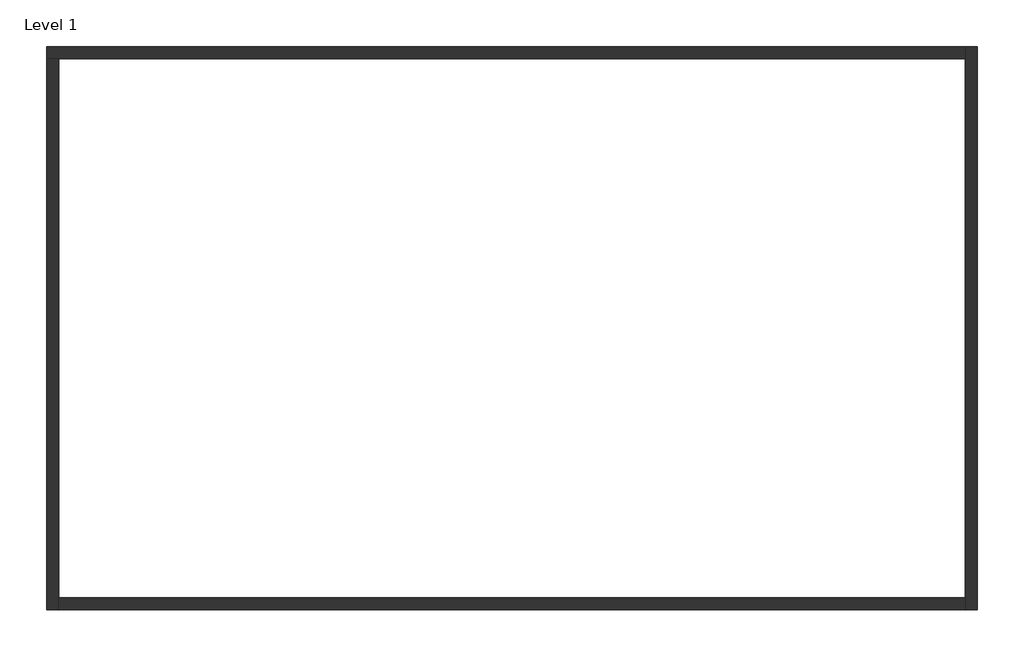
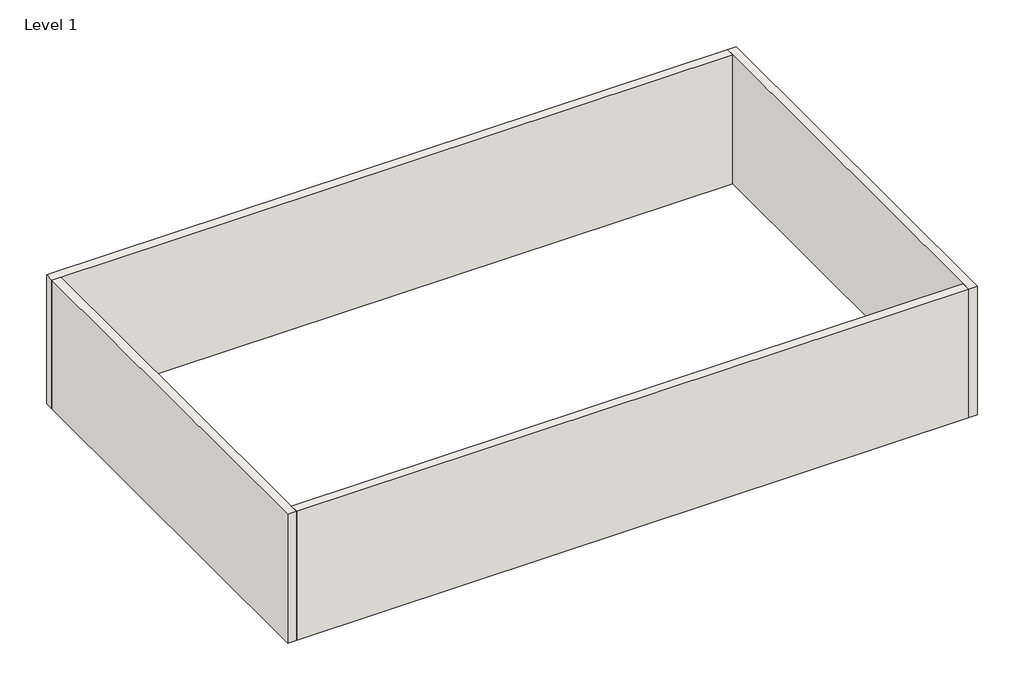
# One storey: 4 walls.
"""IFC4 building model written with IfcOpenShell, lengths in millimetres."""

import ifcopenshell
import ifcopenshell.guid

model = None  # the IFC model being written
_history = None  # IfcOwnerHistory: only IFC2X3 demands one
_inside = {}  # id of a spatial element -> (the spatial element, [elements in it])
_under = {}  # id of a project, library or spatial element -> (it, [spatial elements below it])
_declared = {}  # id of a project -> (the project, [libraries it declares])
_typed = {}  # id of a type object -> (the type object, [elements of that type])
_made_of = {}  # id of a material, layer set ... -> (it, [elements and type objects made of it])


def new_model(schema):
    """Start an empty IFC model of exactly this schema.

    Asked for "IFC4X3", IfcOpenShell would pick the latest addendum, in which some entities
    have other attributes; the version numbers below select the first issue.
    IFC2X3 requires an IfcOwnerHistory on every rooted entity: one is made here for all.
    """
    global model, _history
    if schema == "IFC4X3":
        model = ifcopenshell.file(schema_version=(4, 3, 0, 0))
    else:
        model = ifcopenshell.file(schema=schema)
    _inside.clear()
    _under.clear()
    _declared.clear()
    _typed.clear()
    _made_of.clear()
    _history = None
    if model.schema == "IFC2X3":
        org = make("IfcOrganization", Name="unknown")
        user = make(
            "IfcPersonAndOrganization",
            ThePerson=make("IfcPerson", FamilyName="unknown"),
            TheOrganization=org,
        )
        app = make(
            "IfcApplication",
            ApplicationDeveloper=org,
            Version="unknown",
            ApplicationFullName="unknown",
            ApplicationIdentifier="unknown",
        )
        _history = make(
            "IfcOwnerHistory",
            OwningUser=user,
            OwningApplication=app,
            ChangeAction="ADDED",
            CreationDate=0,
        )
    return model


def make(cls, **values):
    """One entity of the class cls with the attributes given. An attribute that is None is left unset."""
    return model.create_entity(
        cls, **{name: value for name, value in values.items() if value is not None}
    )


def rooted(cls, **values):
    """An entity with a GlobalId (a new one), such as an element, a storey or a relation."""
    return make(cls, GlobalId=ifcopenshell.guid.new(), OwnerHistory=_history, **values)


def si_unit(unit_type, name, prefix=None):
    """IfcSIUnit, for example si_unit("LENGTHUNIT", "METRE", prefix="MILLI")."""
    return make("IfcSIUnit", UnitType=unit_type, Prefix=prefix, Name=name)


def assignment(units):
    """IfcUnitAssignment: the units of a project."""
    return None if units is None else make("IfcUnitAssignment", Units=units)


def point(xyz):
    """IfcCartesianPoint."""
    return None if xyz is None else make("IfcCartesianPoint", Coordinates=xyz)


def direction(xyz):
    """IfcDirection."""
    return None if xyz is None else make("IfcDirection", DirectionRatios=xyz)


def frame(location, z_axis=None, x_axis=None):
    """IfcAxis2Placement3D, a coordinate frame: its origin and axes. An axis left out is left unset."""
    return make(
        "IfcAxis2Placement3D",
        Location=point(location),
        Axis=direction(z_axis),
        RefDirection=direction(x_axis),
    )


def origin():
    """The frame at (0, 0, 0) with its axes left unset."""
    return frame((0.0, 0.0, 0.0))


def origin_with_axes():
    """The frame at (0, 0, 0) with the z axis (0, 0, 1) and the x axis (1, 0, 0) written out."""
    return frame((0.0, 0.0, 0.0), z_axis=(0.0, 0.0, 1.0), x_axis=(1.0, 0.0, 0.0))


def place(relative_to, where):
    """IfcLocalPlacement: puts the frame where relative to a parent placement (None: the world)."""
    return make(
        "IfcLocalPlacement", PlacementRelTo=relative_to, RelativePlacement=where
    )


def context(
    kind, dimensions, precision=None, world=None, true_north=None, identifier=None
):
    """IfcGeometricRepresentationContext, for example the 3D "Model" context."""
    return make(
        "IfcGeometricRepresentationContext",
        ContextIdentifier=identifier,
        ContextType=kind,
        CoordinateSpaceDimension=dimensions,
        Precision=precision,
        WorldCoordinateSystem=world,
        TrueNorth=true_north,
    )


def project(units=None, contexts=None):
    """IfcProject with its units and contexts."""
    return rooted(
        "IfcProject",
        Name="project",
        RepresentationContexts=contexts,
        UnitsInContext=assignment(units),
    )


def spatial(cls, under=None, at=None, **own):
    """A site, building, storey or space (cls), placed at a placement, below another one or the project."""
    s = rooted(cls, ObjectPlacement=at, **own)
    if under is not None:
        _under.setdefault(under.id(), (under, []))[1].append(s)
    return s


def polyline(points):
    """IfcPolyline through the points."""
    return make("IfcPolyline", Points=[point(p) for p in points])


def outline(outer, holes=None, kind="AREA"):
    """IfcArbitraryClosedProfileDef: a profile drawn as a closed curve; with holes, ...WithVoids."""
    if holes is None:
        return make("IfcArbitraryClosedProfileDef", ProfileType=kind, OuterCurve=outer)
    return make(
        "IfcArbitraryProfileDefWithVoids",
        ProfileType=kind,
        OuterCurve=outer,
        InnerCurves=holes,
    )


def extrude(swept, where, along, depth):
    """IfcExtrudedAreaSolid: the profile swept, set in the frame where, extruded along a direction by depth."""
    return make(
        "IfcExtrudedAreaSolid",
        SweptArea=swept,
        Position=where,
        ExtrudedDirection=direction(along),
        Depth=depth,
    )


def faces_of(points, faces, orient=None, outer=None):
    """IfcFace entities. A face is a list of loops; a loop is a list of indices into points, from 0.

    orient and outer hold one flag for each loop. By default every Orientation is true, the
    first loop of a face is its IfcFaceOuterBound and the others are IfcFaceBound.
    """
    made = []
    for i, loops in enumerate(faces):
        bounds = []
        for j, loop in enumerate(loops):
            is_outer = j == 0 if outer is None else outer[i][j]
            bounds.append(
                make(
                    "IfcFaceOuterBound" if is_outer else "IfcFaceBound",
                    Bound=make("IfcPolyLoop", Polygon=[points[k] for k in loop]),
                    Orientation=True if orient is None else orient[i][j],
                )
            )
        made.append(make("IfcFace", Bounds=bounds))
    return made


def faceted_brep(points, faces, orient=None, outer=None, voids=None):
    """IfcFacetedBrep: a solid bounded by flat faces; with voids (closed shells), ...WithVoids."""
    shared = [point(p) for p in points]
    hull = make("IfcClosedShell", CfsFaces=faces_of(shared, faces, orient, outer))
    if voids is None:
        return make("IfcFacetedBrep", Outer=hull)
    return make(
        "IfcFacetedBrepWithVoids",
        Outer=hull,
        Voids=[
            make(cls, CfsFaces=faces_of(shared, fs, o, b)) for cls, fs, o, b in voids
        ],
    )


def shape(context_of_items, identifier, shape_type, items):
    """IfcShapeRepresentation: the items that make up one representation, for example the "Body"."""
    return make(
        "IfcShapeRepresentation",
        ContextOfItems=context_of_items,
        RepresentationIdentifier=identifier,
        RepresentationType=shape_type,
        Items=items,
    )


def made_of(thing, what):
    """Note that an element or type object is made of a material, layer set ...; save() writes the relation."""
    if what is not None:
        _made_of.setdefault(what.id(), (what, []))[1].append(thing)
    return thing


def element(
    cls,
    number,
    at=None,
    inside=None,
    cuts=None,
    type_object=None,
    material=None,
    context=None,
    identifier="Body",
    shape_type=None,
    held_by="IfcProductDefinitionShape",
    body=None,
    shapes=None,
    **own,
):
    """One element of the class cls, such as IfcWall. Its Tag is "e" and its number.

    at: its placement. inside: the storey or other place that contains it. cuts: it is an
    opening in that element (IfcRelVoidsElement). A single representation is given by context,
    identifier, shape_type and body (its items); several are given by shapes. held_by: the class
    of the entity that holds the representations. save() writes the other relations.
    """
    e = rooted(cls, Tag="e%d" % number, ObjectPlacement=at, **own)
    if body is not None:
        shapes = [shape(context, identifier, shape_type, body)]
    if shapes is not None:
        e.Representation = make(held_by, Representations=shapes)
    if inside is not None:
        _inside.setdefault(inside.id(), (inside, []))[1].append(e)
    if cuts is not None:
        rooted(
            "IfcRelVoidsElement", RelatingBuildingElement=cuts, RelatedOpeningElement=e
        )
    if type_object is not None:
        _typed.setdefault(type_object.id(), (type_object, []))[1].append(e)
    return made_of(e, material)


def aggregate(whole, parts):
    """IfcRelAggregates: a whole, such as a stair, and the parts it consists of."""
    return rooted("IfcRelAggregates", RelatingObject=whole, RelatedObjects=parts)


def save(model, path):
    """Write the relations noted so far, then the file.

    IfcRelAggregates (storeys below a building ...), IfcRelContainedInSpatialStructure (elements
    in a storey), IfcRelDefinesByType, IfcRelAssociatesMaterial and IfcRelDeclares: one each for
    every whole, place, type object, material and project.
    """
    for whole, parts in _under.values():
        aggregate(whole, parts)
    for where, things in _inside.values():
        rooted(
            "IfcRelContainedInSpatialStructure",
            RelatedElements=things,
            RelatingStructure=where,
        )
    for kind, things in _typed.values():
        rooted("IfcRelDefinesByType", RelatedObjects=things, RelatingType=kind)
    for what, things in _made_of.values():
        rooted("IfcRelAssociatesMaterial", RelatedObjects=things, RelatingMaterial=what)
    for by, libraries in _declared.values():
        rooted("IfcRelDeclares", RelatingContext=by, RelatedDefinitions=libraries)
    model.write(path)


model = new_model("IFC4")

# Units and contexts
model_context = context("Model", 3, world=origin())
ifc_project = project(units=[si_unit("LENGTHUNIT", "METRE", prefix="MILLI")], contexts=[model_context])

# Site, building, storey
site = spatial("IfcSite", under=ifc_project)
building = spatial("IfcBuilding", under=site)
storey = spatial("IfcBuildingStorey", under=building, Name="Level 1", Elevation=0.0)

# Walls
placement = place(None, origin())
element("IfcWall", 1, ObjectType="Generic - 8\"", at=placement, inside=storey, context=model_context, shape_type="Brep", body=[
    faceted_brep([(-7840.93909, 9212.1412302, 0.0), (-7637.73909, 9212.1412302, 0.0), (7399.06091, 9212.1412302, 0.0), (7399.06091, 9212.1412302, 3048.0), (-5199.33909, 9212.1412302, 3048.0), (-7637.73909, 9212.1412302, 3048.0), (-7840.93909, 9212.1412302, 3048.0), (-7840.93909, 9415.3412302, 0.0), (-7840.93909, 9415.3412302, 3048.0), (7399.06091, 9415.3412302, 3048.0), (7399.06091, 9415.3412302, 0.0)], [[[0, 1, 2, 3, 4, 5, 6]], [[7, 8, 9, 10]], [[2, 1, 0, 7, 10]], [[0, 6, 8, 7]], [[3, 2, 10, 9]], [[6, 5, 4, 3, 9, 8]]]),
])
element("IfcWall", 2, ObjectType="Generic - 8\"", at=placement, inside=storey, context=model_context, shape_type="Brep", body=[
    faceted_brep([(-7637.73909, 68.1412302, 0.0), (-7637.73909, 271.3412302, 0.0), (-7637.73909, 9212.1412302, 0.0), (-7637.73909, 9212.1412302, 3048.0), (-7637.73909, 4335.3412302, 3048.0), (-7637.73909, 271.3412302, 3048.0), (-7637.73909, 68.1412302, 3048.0), (-7840.93909, 68.1412302, 0.0), (-7840.93909, 68.1412302, 3048.0), (-7840.93909, 9212.1412302, 3048.0), (-7840.93909, 9212.1412302, 0.0)], [[[0, 1, 2, 3, 4, 5, 6]], [[7, 8, 9, 10]], [[2, 1, 0, 7, 10]], [[0, 6, 8, 7]], [[3, 2, 10, 9]], [[6, 5, 4, 3, 9, 8]]]),
])
element("IfcWall", 3, ObjectType="Generic - 8\"", at=placement, inside=storey, context=model_context, shape_type="SweptSolid", body=[
    extrude(outline(polyline([(-7637.73909, 271.3412302), (7399.06091, 271.3412302), (7399.06091, 68.1412302), (-7637.73909, 68.1412302), (-7637.73909, 271.3412302)])), origin_with_axes(), (0.0, 0.0, 1.0), 3048.0),
])
element("IfcWall", 4, ObjectType="Generic - 8\"", at=placement, inside=storey, context=model_context, shape_type="Brep", body=[
    faceted_brep([(7399.06091, 9415.3412302, 0.0), (7399.06091, 9212.1412302, 0.0), (7399.06091, 271.3412302, 0.0), (7399.06091, 68.1412302, 0.0), (7399.06091, 68.1412302, 3048.0), (7399.06091, 271.3412302, 3048.0), (7399.06091, 9212.1412302, 3048.0), (7399.06091, 9415.3412302, 3048.0), (7602.26091, 9415.3412302, 0.0), (7602.26091, 9415.3412302, 3048.0), (7602.26091, 68.1412302, 3048.0), (7602.26091, 68.1412302, 0.0)], [[[0, 1, 2, 3, 4, 5, 6, 7]], [[8, 9, 10, 11]], [[3, 2, 1, 0, 8, 11]], [[0, 7, 9, 8]], [[4, 3, 11, 10]], [[7, 6, 5, 4, 10, 9]]]),
])

save(model, "model.ifc")
